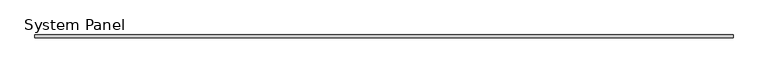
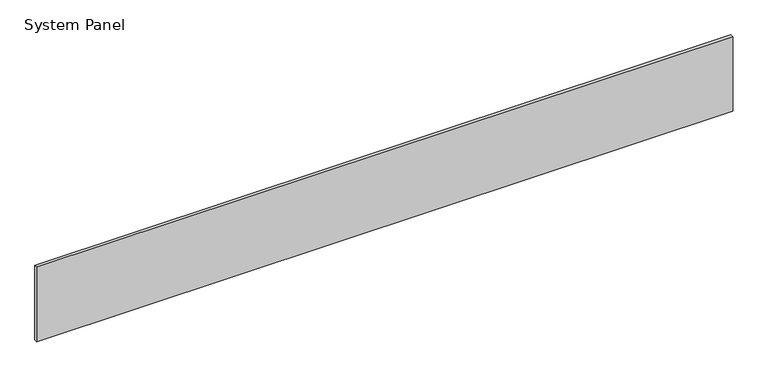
"""IFC4 building model written with IfcOpenShell, lengths in millimetres: plate geometry, System Panel : Purline 25mm Horizontal - Plain RHEA - PUR."""

from ifc_helpers import new_model, si_unit, origin, origin_with_axes, place, context, project, spatial, polyline, outline, extrude, source, transform, mapped, element, save


def system_panel_be0a1c93(model_context):
    return source(origin(), model_context, "Body", "SweptSolid", [
        extrude(outline(polyline([(2990.0, -25.0), (-2990.0, -25.0), (-2990.0, 0.0), (2990.0, 0.0), (2990.0, -25.0)])), origin_with_axes(), (0.0, 0.0, 1.0), 679.9704237),
    ])


if __name__ == "__main__":
    model = new_model("IFC4")
    model_context = context("Model", 3, world=origin())
    ifc_project = project(units=[si_unit("LENGTHUNIT", "METRE", prefix="MILLI")], contexts=[model_context])
    site = spatial("IfcSite", under=ifc_project)
    building = spatial("IfcBuilding", under=site)
    placement = place(None, origin())
    system_panel_shape = system_panel_be0a1c93(model_context)
    element("IfcPlate", 1, ObjectType="System Panel : Purline 25mm Horizontal - Plain RHEA - PUR", at=placement, inside=building, context=model_context, shape_type="MappedRepresentation", body=[
        mapped(system_panel_shape, transform((0.0, 0.0, 0.0), x_axis=(1.0, 0.0, 0.0), y_axis=(0.0, 1.0, 0.0), z_axis=(0.0, 0.0, 1.0))),
    ])
    save(model, "model.ifc")
